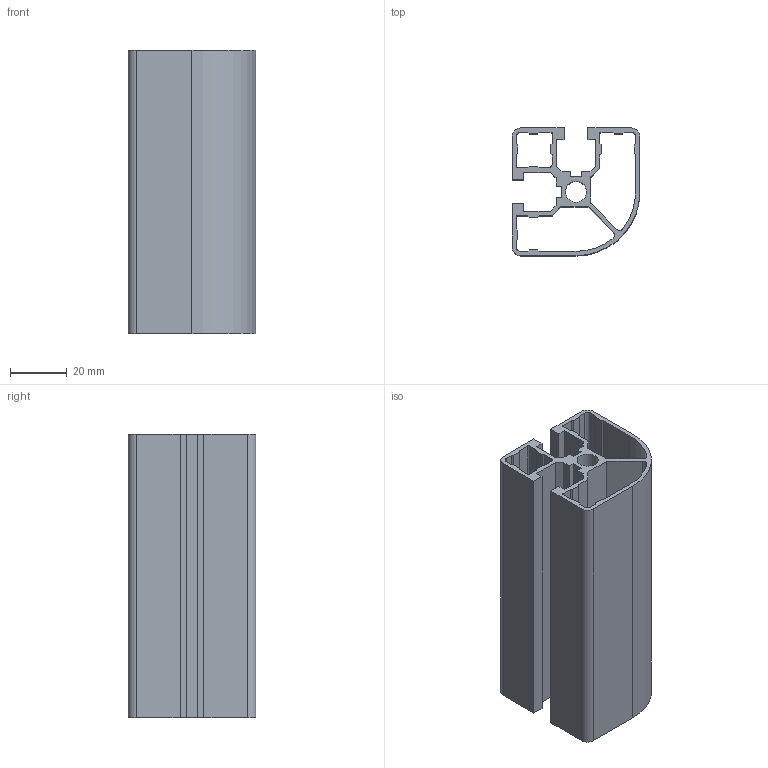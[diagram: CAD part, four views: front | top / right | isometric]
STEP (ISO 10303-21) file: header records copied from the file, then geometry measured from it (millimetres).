
FILE_DESCRIPTION (( 'STEP AP214' ), '1' );
FILE_NAME ('SA02014L.step', '2024-12-03T16:28:58', ( '' ), ( '' ), 'SwSTEP 2.0', 'SolidWorks 2023', '' );
FILE_SCHEMA (( 'AUTOMOTIVE_DESIGN' ));
Length unit declared in the file: millimetre
Products named in the file (1): SA02014L
Bounding box: 45 x 45 x 100 mm (x, y, z)
Volume: 46778.9 mm3; surface area: 51521.9 mm2
Topology: 1 solids, 1 shells, 113 faces, 333 edges, 222 vertices
Faces by surface type: plane 90, cylinder 23
Full cylindrical faces by diameter (mm): 7.45 x1
Entity records: 3767 total; most frequent: CARTESIAN_POINT 668, ORIENTED_EDGE 664, DIRECTION 606, EDGE_CURVE 332, LINE 286, VECTOR 286, VERTEX_POINT 222, AXIS2_PLACEMENT_3D 160
